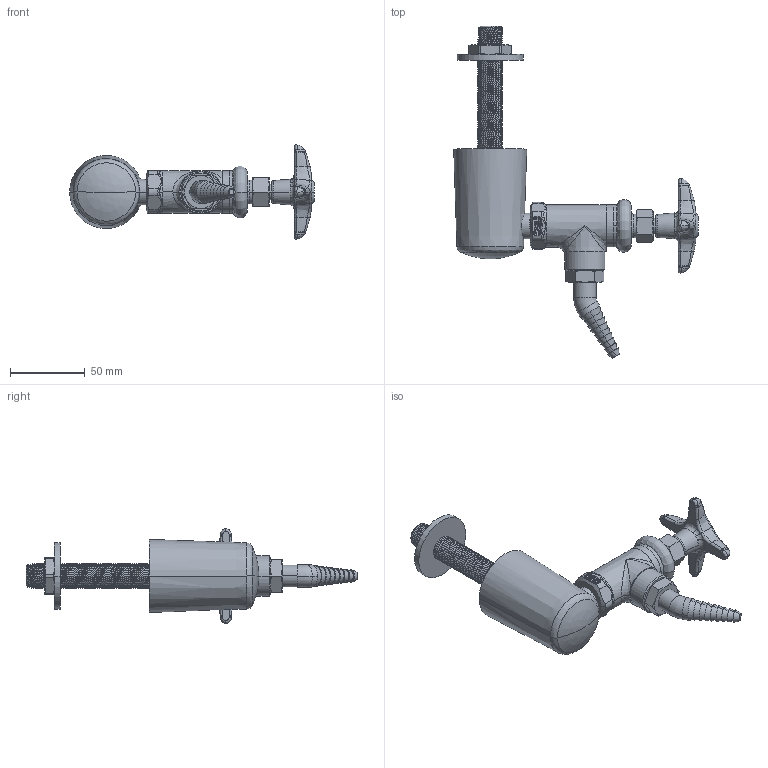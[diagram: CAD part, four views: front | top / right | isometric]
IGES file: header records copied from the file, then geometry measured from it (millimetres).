
Start section:  PTC IGES file: LGF3-A22K-10.igs
Global section: file name: LGF3-A22K-10.igs; native system: Creo Parametric by PTC Inc.; preprocessor: 2014500; author: usch_engrender; organization: Unknown; date: 20160111.115103; units: inch
Bounding box: 164.14 x 222.79 x 63.41 mm (x, y, z)
Volume: 199627.8 mm3; surface area: 53176.7 mm2
Topology: 1 solids, 6 shells, 778 faces, 1857 edges, 1115 vertices
Faces by surface type: bspline 397, revolution 381
